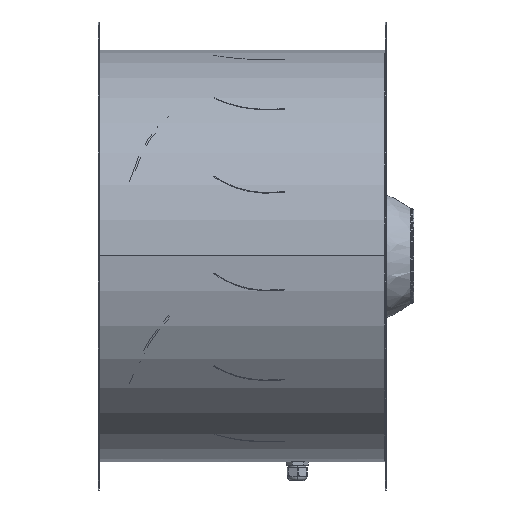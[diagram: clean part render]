
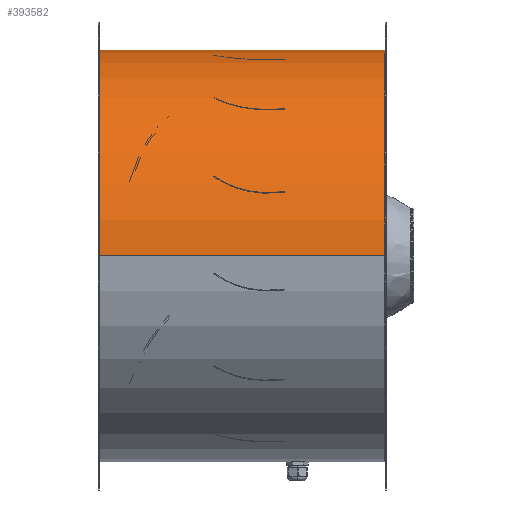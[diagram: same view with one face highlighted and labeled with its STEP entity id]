
A CAD part, top view. The second image highlights one B-rep face of the part: STEP entity #393582.
In plain terms, the highlighted cylindrical face has radius 316.5 mm (diameter 633 mm), a partial arc.
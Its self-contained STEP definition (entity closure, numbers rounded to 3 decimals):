
#2525 = VERTEX_POINT ( 'NONE', #249151 ) ;
#7586 = DIRECTION ( 'NONE',  ( 1., 0., 0. ) ) ;
#9862 = DIRECTION ( 'NONE',  ( 1., 0., 0. ) ) ;
#10898 = LINE ( 'NONE', #111447, #104008 ) ;
#13109 = CARTESIAN_POINT ( 'NONE',  ( -155., 3., -316.486 ) ) ;
#13257 = DIRECTION ( 'NONE',  ( 0., 0., 1. ) ) ;
#22384 = AXIS2_PLACEMENT_3D ( 'NONE', #133060, #172908, #53372 ) ;
#23216 = AXIS2_PLACEMENT_3D ( 'NONE', #408222, #170563, #448113 ) ;
#28545 = CARTESIAN_POINT ( 'NONE',  ( 282.75, 0., -316.5 ) ) ;
#33855 = VERTEX_POINT ( 'NONE', #448109 ) ;
#41095 = VECTOR ( 'NONE', #318322, 1000. ) ;
#52978 = EDGE_CURVE ( 'NONE', #2525, #410840, #106264, .T. ) ;
#53372 = DIRECTION ( 'NONE',  ( 0., 0., 1. ) ) ;
#62283 = CARTESIAN_POINT ( 'NONE',  ( -155., 0., -316.5 ) ) ;
#71590 = DIRECTION ( 'NONE',  ( 1., 0., 0. ) ) ;
#78520 = LINE ( 'NONE', #195334, #488043 ) ;
#98731 = VERTEX_POINT ( 'NONE', #62283 ) ;
#102168 = FACE_OUTER_BOUND ( 'NONE', #115999, .T. ) ;
#104008 = VECTOR ( 'NONE', #71590, 1000. ) ;
#106264 = CIRCLE ( 'NONE', #145037, 316.5 ) ;
#108479 = EDGE_CURVE ( 'NONE', #382431, #120189, #338539, .T. ) ;
#111447 = CARTESIAN_POINT ( 'NONE',  ( -155., 3.014, -316.486 ) ) ;
#115999 = EDGE_LOOP ( 'NONE', ( #435870, #401791, #341252, #476014, #168396, #354838, #165729, #145100, #438042, #133296 ) ) ;
#118338 = DIRECTION ( 'NONE',  ( 1., 0., 0. ) ) ;
#120189 = VERTEX_POINT ( 'NONE', #401139 ) ;
#129515 = EDGE_CURVE ( 'NONE', #120189, #142848, #10898, .T. ) ;
#133060 = CARTESIAN_POINT ( 'NONE',  ( -155., 0., 0. ) ) ;
#133296 = ORIENTED_EDGE ( 'NONE', *, *, #435734, .F. ) ;
#137401 = CARTESIAN_POINT ( 'NONE',  ( -155.75, 0., 316.5 ) ) ;
#142140 = DIRECTION ( 'NONE',  ( 1., 0., 0. ) ) ;
#142848 = VERTEX_POINT ( 'NONE', #224999 ) ;
#145037 = AXIS2_PLACEMENT_3D ( 'NONE', #379776, #142140, #419645 ) ;
#145100 = ORIENTED_EDGE ( 'NONE', *, *, #129515, .F. ) ;
#151326 = VECTOR ( 'NONE', #467689, 1000. ) ;
#158503 = CARTESIAN_POINT ( 'NONE',  ( 282., 0., -316.5 ) ) ;
#161280 = AXIS2_PLACEMENT_3D ( 'NONE', #488324, #250779, #13257 ) ;
#165729 = ORIENTED_EDGE ( 'NONE', *, *, #237445, .T. ) ;
#168396 = ORIENTED_EDGE ( 'NONE', *, *, #396286, .F. ) ;
#170563 = DIRECTION ( 'NONE',  ( 1., 0., 0. ) ) ;
#172908 = DIRECTION ( 'NONE',  ( 1., 0., 0. ) ) ;
#195334 = CARTESIAN_POINT ( 'NONE',  ( -155., 0., 316.5 ) ) ;
#206912 = EDGE_CURVE ( 'NONE', #410840, #249737, #78520, .T. ) ;
#209149 = VERTEX_POINT ( 'NONE', #28545 ) ;
#209165 = AXIS2_PLACEMENT_3D ( 'NONE', #355961, #118338, #395847 ) ;
#224999 = CARTESIAN_POINT ( 'NONE',  ( 282., 3.014, -316.486 ) ) ;
#237445 = EDGE_CURVE ( 'NONE', #33855, #142848, #496977, .T. ) ;
#245103 = CARTESIAN_POINT ( 'NONE',  ( -155., 0., 0. ) ) ;
#247378 = CARTESIAN_POINT ( 'NONE',  ( 282.75, 0., 0. ) ) ;
#249151 = CARTESIAN_POINT ( 'NONE',  ( -155.75, 0., -316.5 ) ) ;
#249737 = VERTEX_POINT ( 'NONE', #368833 ) ;
#250779 = DIRECTION ( 'NONE',  ( 1., 0., 0. ) ) ;
#284988 = DIRECTION ( 'NONE',  ( 0., 0., 1. ) ) ;
#287244 = DIRECTION ( 'NONE',  ( 0., 0., 1. ) ) ;
#300693 = CYLINDRICAL_SURFACE ( 'NONE', #22384, 316.5 ) ;
#308809 = CIRCLE ( 'NONE', #475652, 316.5 ) ;
#318322 = DIRECTION ( 'NONE',  ( 1., 0., 0. ) ) ;
#320412 = CARTESIAN_POINT ( 'NONE',  ( -155., 0., -316.5 ) ) ;
#321671 = AXIS2_PLACEMENT_3D ( 'NONE', #247378, #9862, #287244 ) ;
#331739 = EDGE_CURVE ( 'NONE', #209149, #249737, #333866, .T. ) ;
#333866 = CIRCLE ( 'NONE', #321671, 316.5 ) ;
#337738 = EDGE_CURVE ( 'NONE', #2525, #98731, #357524, .T. ) ;
#338539 = CIRCLE ( 'NONE', #23216, 316.5 ) ;
#338789 = CIRCLE ( 'NONE', #209165, 316.5 ) ;
#341252 = ORIENTED_EDGE ( 'NONE', *, *, #206912, .T. ) ;
#345517 = EDGE_CURVE ( 'NONE', #416310, #33855, #338789, .T. ) ;
#354838 = ORIENTED_EDGE ( 'NONE', *, *, #345517, .T. ) ;
#355961 = CARTESIAN_POINT ( 'NONE',  ( 282., 0., 0. ) ) ;
#357524 = LINE ( 'NONE', #320412, #41095 ) ;
#362351 = LINE ( 'NONE', #427820, #151326 ) ;
#368833 = CARTESIAN_POINT ( 'NONE',  ( 282.75, 0., 316.5 ) ) ;
#379776 = CARTESIAN_POINT ( 'NONE',  ( -155.75, 0., 0. ) ) ;
#382431 = VERTEX_POINT ( 'NONE', #13109 ) ;
#393582 = ADVANCED_FACE ( 'NONE', ( #102168 ), #300693, .T. ) ;
#395847 = DIRECTION ( 'NONE',  ( 0., 0., 1. ) ) ;
#396286 = EDGE_CURVE ( 'NONE', #416310, #209149, #362351, .T. ) ;
#401139 = CARTESIAN_POINT ( 'NONE',  ( -155., 3.014, -316.486 ) ) ;
#401791 = ORIENTED_EDGE ( 'NONE', *, *, #52978, .T. ) ;
#408222 = CARTESIAN_POINT ( 'NONE',  ( -155., 0., 0. ) ) ;
#410840 = VERTEX_POINT ( 'NONE', #137401 ) ;
#416310 = VERTEX_POINT ( 'NONE', #158503 ) ;
#419645 = DIRECTION ( 'NONE',  ( 0., 0., 1. ) ) ;
#427820 = CARTESIAN_POINT ( 'NONE',  ( -155., 0., -316.5 ) ) ;
#433003 = DIRECTION ( 'NONE',  ( 1., 0., 0. ) ) ;
#435734 = EDGE_CURVE ( 'NONE', #98731, #382431, #308809, .T. ) ;
#435870 = ORIENTED_EDGE ( 'NONE', *, *, #337738, .F. ) ;
#438042 = ORIENTED_EDGE ( 'NONE', *, *, #108479, .F. ) ;
#448109 = CARTESIAN_POINT ( 'NONE',  ( 282., 3., -316.486 ) ) ;
#448113 = DIRECTION ( 'NONE',  ( 0., 0., 1. ) ) ;
#467689 = DIRECTION ( 'NONE',  ( 1., 0., 0. ) ) ;
#475652 = AXIS2_PLACEMENT_3D ( 'NONE', #245103, #7586, #284988 ) ;
#476014 = ORIENTED_EDGE ( 'NONE', *, *, #331739, .F. ) ;
#488043 = VECTOR ( 'NONE', #433003, 1000. ) ;
#488324 = CARTESIAN_POINT ( 'NONE',  ( 282., 0., 0. ) ) ;
#496977 = CIRCLE ( 'NONE', #161280, 316.5 ) ;
